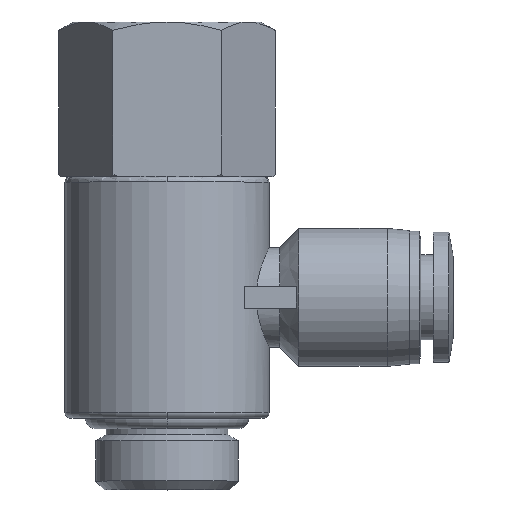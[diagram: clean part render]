
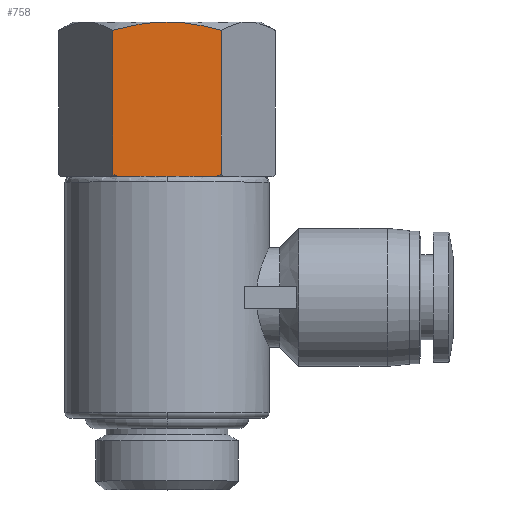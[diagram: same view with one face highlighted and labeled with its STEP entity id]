
A CAD part, top view. The second image highlights one B-rep face of the part: STEP entity #758.
In plain terms, the highlighted planar face has unit normal (0, 0, 1).
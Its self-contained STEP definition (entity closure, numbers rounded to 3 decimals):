
#102 = ORIENTED_EDGE ( 'NONE', *, *, #163, .F. ) ;
#134 = AXIS2_PLACEMENT_3D ( 'NONE', #277, #2802, #2074 ) ;
#163 = EDGE_CURVE ( 'NONE', #1649, #1139, #454, .T. ) ;
#166 = CARTESIAN_POINT ( 'NONE',  ( -4.907, 51.641, 8.5 ) ) ;
#220 = DIRECTION ( 'NONE',  ( 0., 1., 0. ) ) ;
#226 = EDGE_CURVE ( 'NONE', #1507, #263, #1254, .T. ) ;
#263 = VERTEX_POINT ( 'NONE', #1383 ) ;
#277 = CARTESIAN_POINT ( 'NONE',  ( -4.907, 52.4, 8.5 ) ) ;
#305 = VECTOR ( 'NONE', #2255, 1000. ) ;
#324 = LINE ( 'NONE', #2805, #2492 ) ;
#334 = DIRECTION ( 'NONE',  ( -1., 0., 0. ) ) ;
#376 = EDGE_CURVE ( 'NONE', #1139, #2080, #2140, .T. ) ;
#419 = CARTESIAN_POINT ( 'NONE',  ( 4.494, 38.4, 8.5 ) ) ;
#440 = LINE ( 'NONE', #2240, #547 ) ;
#454 = LINE ( 'NONE', #1828, #305 ) ;
#501 = EDGE_CURVE ( 'NONE', #900, #1020, #2553, .T. ) ;
#547 = VECTOR ( 'NONE', #220, 1000. ) ;
#700 = CARTESIAN_POINT ( 'NONE',  ( -2.077, 38.4, 8.5 ) ) ;
#709 = VECTOR ( 'NONE', #1222, 1000. ) ;
#723 = CARTESIAN_POINT ( 'NONE',  ( 2.278, 52.4, 8.5 ) ) ;
#758 = ADVANCED_FACE ( 'NONE', ( #1418 ), #1673, .T. ) ;
#776 = EDGE_CURVE ( 'NONE', #2080, #900, #2321, .T. ) ;
#806 = ORIENTED_EDGE ( 'NONE', *, *, #376, .F. ) ;
#853 = CARTESIAN_POINT ( 'NONE',  ( -4.494, 38.4, 8.5 ) ) ;
#900 = VERTEX_POINT ( 'NONE', #853 ) ;
#920 =( BOUNDED_CURVE ( )  B_SPLINE_CURVE ( 2, ( #1310, #2691, #2668 ),
 .UNSPECIFIED., .F., .F. ) 
 B_SPLINE_CURVE_WITH_KNOTS ( ( 3, 3 ),
 ( 0., 0.498 ),
 .UNSPECIFIED. ) 
 CURVE ( )  GEOMETRIC_REPRESENTATION_ITEM ( )  RATIONAL_B_SPLINE_CURVE ( ( 1., 1.038, 1. ) ) 
 REPRESENTATION_ITEM ( '' )  );
#927 = CARTESIAN_POINT ( 'NONE',  ( 4.907, 51.641, 8.5 ) ) ;
#953 = CARTESIAN_POINT ( 'NONE',  ( -2.077, 38.4, 8.5 ) ) ;
#1020 = VERTEX_POINT ( 'NONE', #2827 ) ;
#1139 = VERTEX_POINT ( 'NONE', #2920 ) ;
#1222 = DIRECTION ( 'NONE',  ( -1., 0., 0. ) ) ;
#1254 =( BOUNDED_CURVE ( )  B_SPLINE_CURVE ( 2, ( #2472, #723, #927 ),
 .UNSPECIFIED., .F., .F. ) 
 B_SPLINE_CURVE_WITH_KNOTS ( ( 3, 3 ),
 ( 0.498, 0.996 ),
 .UNSPECIFIED. ) 
 CURVE ( )  GEOMETRIC_REPRESENTATION_ITEM ( )  RATIONAL_B_SPLINE_CURVE ( ( 1., 1.038, 1. ) ) 
 REPRESENTATION_ITEM ( '' )  );
#1310 = CARTESIAN_POINT ( 'NONE',  ( -4.907, 51.641, 8.5 ) ) ;
#1324 = CARTESIAN_POINT ( 'NONE',  ( 4.699, 38.496, 8.5 ) ) ;
#1383 = CARTESIAN_POINT ( 'NONE',  ( 4.907, 51.641, 8.5 ) ) ;
#1418 = FACE_OUTER_BOUND ( 'NONE', #1794, .T. ) ;
#1431 = ORIENTED_EDGE ( 'NONE', *, *, #1946, .F. ) ;
#1507 = VERTEX_POINT ( 'NONE', #2095 ) ;
#1520 = ORIENTED_EDGE ( 'NONE', *, *, #2870, .F. ) ;
#1531 = CARTESIAN_POINT ( 'NONE',  ( 4.907, 38.6, 8.5 ) ) ;
#1562 = ORIENTED_EDGE ( 'NONE', *, *, #501, .F. ) ;
#1607 = VERTEX_POINT ( 'NONE', #166 ) ;
#1649 = VERTEX_POINT ( 'NONE', #2582 ) ;
#1673 = PLANE ( 'NONE',  #134 ) ;
#1723 = ORIENTED_EDGE ( 'NONE', *, *, #226, .F. ) ;
#1794 = EDGE_LOOP ( 'NONE', ( #1520, #1877, #1562, #2007, #806, #102, #2489, #1431, #1723 ) ) ;
#1828 = CARTESIAN_POINT ( 'NONE',  ( 4.494, 38.4, 8.5 ) ) ;
#1877 = ORIENTED_EDGE ( 'NONE', *, *, #2913, .F. ) ;
#1946 = EDGE_CURVE ( 'NONE', #263, #2422, #324, .T. ) ;
#2007 = ORIENTED_EDGE ( 'NONE', *, *, #776, .F. ) ;
#2071 = VECTOR ( 'NONE', #334, 1000. ) ;
#2074 = DIRECTION ( 'NONE',  ( 1., 0., 0. ) ) ;
#2080 = VERTEX_POINT ( 'NONE', #700 ) ;
#2095 = CARTESIAN_POINT ( 'NONE',  ( 0., 52.4, 8.5 ) ) ;
#2140 = LINE ( 'NONE', #2804, #709 ) ;
#2141 = DIRECTION ( 'NONE',  ( 0., -1., 0. ) ) ;
#2203 = CARTESIAN_POINT ( 'NONE',  ( -4.494, 38.4, 8.5 ) ) ;
#2240 = CARTESIAN_POINT ( 'NONE',  ( -4.907, 38.6, 8.5 ) ) ;
#2255 = DIRECTION ( 'NONE',  ( -1., 0., 0. ) ) ;
#2321 = LINE ( 'NONE', #953, #2071 ) ;
#2422 = VERTEX_POINT ( 'NONE', #2459 ) ;
#2442 = EDGE_CURVE ( 'NONE', #2422, #1649, #2624, .T. ) ;
#2459 = CARTESIAN_POINT ( 'NONE',  ( 4.907, 38.6, 8.5 ) ) ;
#2472 = CARTESIAN_POINT ( 'NONE',  ( 0., 52.4, 8.5 ) ) ;
#2489 = ORIENTED_EDGE ( 'NONE', *, *, #2442, .F. ) ;
#2492 = VECTOR ( 'NONE', #2141, 1000. ) ;
#2553 =( BOUNDED_CURVE ( )  B_SPLINE_CURVE ( 2, ( #2203, #2663, #2862 ),
 .UNSPECIFIED., .F., .T. ) 
 B_SPLINE_CURVE_WITH_KNOTS ( ( 3, 3 ),
 ( 0., 0.046 ),
 .UNSPECIFIED. ) 
 CURVE ( )  GEOMETRIC_REPRESENTATION_ITEM ( )  RATIONAL_B_SPLINE_CURVE ( ( 1., 1., 1. ) ) 
 REPRESENTATION_ITEM ( '' )  );
#2582 = CARTESIAN_POINT ( 'NONE',  ( 4.494, 38.4, 8.5 ) ) ;
#2624 =( BOUNDED_CURVE ( )  B_SPLINE_CURVE ( 2, ( #1531, #1324, #419 ),
 .UNSPECIFIED., .F., .F. ) 
 B_SPLINE_CURVE_WITH_KNOTS ( ( 3, 3 ),
 ( 0., 0.046 ),
 .UNSPECIFIED. ) 
 CURVE ( )  GEOMETRIC_REPRESENTATION_ITEM ( )  RATIONAL_B_SPLINE_CURVE ( ( 1., 1., 1. ) ) 
 REPRESENTATION_ITEM ( '' )  );
#2663 = CARTESIAN_POINT ( 'NONE',  ( -4.699, 38.496, 8.5 ) ) ;
#2668 = CARTESIAN_POINT ( 'NONE',  ( 0., 52.4, 8.5 ) ) ;
#2691 = CARTESIAN_POINT ( 'NONE',  ( -2.278, 52.4, 8.5 ) ) ;
#2802 = DIRECTION ( 'NONE',  ( 0., 0., 1. ) ) ;
#2804 = CARTESIAN_POINT ( 'NONE',  ( 2.077, 38.4, 8.5 ) ) ;
#2805 = CARTESIAN_POINT ( 'NONE',  ( 4.907, 51.641, 8.5 ) ) ;
#2827 = CARTESIAN_POINT ( 'NONE',  ( -4.907, 38.6, 8.5 ) ) ;
#2862 = CARTESIAN_POINT ( 'NONE',  ( -4.907, 38.6, 8.5 ) ) ;
#2870 = EDGE_CURVE ( 'NONE', #1607, #1507, #920, .T. ) ;
#2913 = EDGE_CURVE ( 'NONE', #1020, #1607, #440, .T. ) ;
#2920 = CARTESIAN_POINT ( 'NONE',  ( 2.077, 38.4, 8.5 ) ) ;
